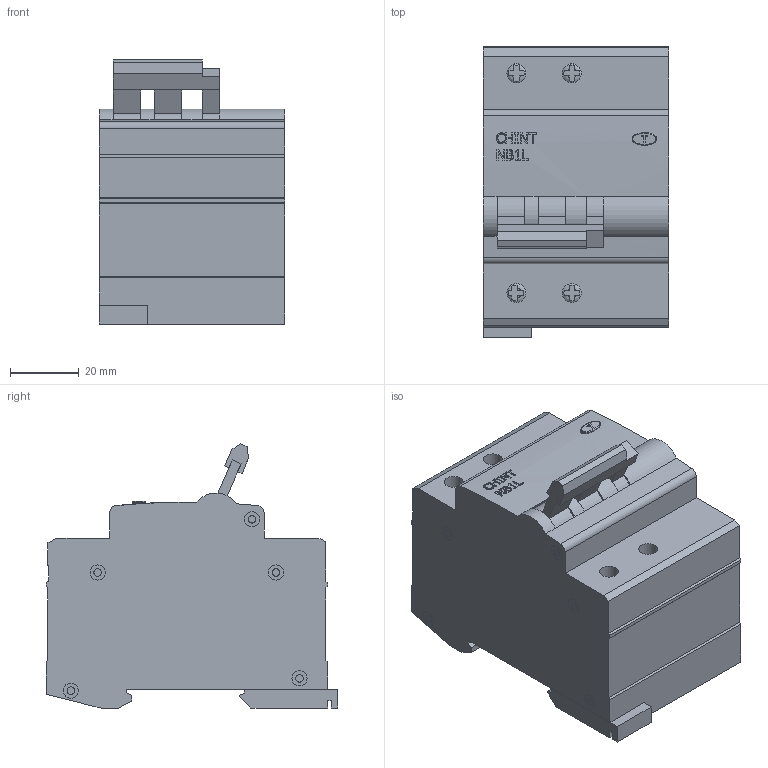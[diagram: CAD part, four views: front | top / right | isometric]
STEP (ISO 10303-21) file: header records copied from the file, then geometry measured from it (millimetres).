
FILE_DESCRIPTION(/* description */ (''),/* implementation_level */ '2;1');
FILE_NAME(/* name */ 'D:\CHINT\NB1L\Диф. автомат NB1L 2P C6 30mA тип AC 10kA (54mm) (R) (CHINT).stp',/* time_stamp */ '2017-09-24T19:11:36+04:00',/* author */ ('RSagdiev'),/* organization */ (''),/* preprocessor_version */ 'ST-DEVELOPER v16.5',/* originating_system */ 'Autodesk Inventor 2017',/* authorisation */ '');
FILE_SCHEMA (('AUTOMOTIVE_DESIGN { 1 0 10303 214 3 1 1 }'));
Length unit declared in the file: millimetre
Products named in the file (1): Диф. автомат NB1L 2P C6
 30mA тип AC 10kA (54mm) (R) (CHINT)
Bounding box: 54 x 85 x 76.99 mm (x, y, z)
Volume: 231235.4 mm3; surface area: 30779.3 mm2
Topology: 11 solids, 11 shells, 352 faces, 865 edges, 574 vertices
Faces by surface type: plane 263, cylinder 51, bspline 38
Full cylindrical faces by diameter (mm): 2.1 x2, 2.2 x10, 4.4 x10, 5.5 x4
Entity records: 11203 total; most frequent: CARTESIAN_POINT 3014, ORIENTED_EDGE 1678, DIRECTION 1582, EDGE_CURVE 839, VERTEX_POINT 574, AXIS2_PLACEMENT_3D 528, LINE 526, VECTOR 526
